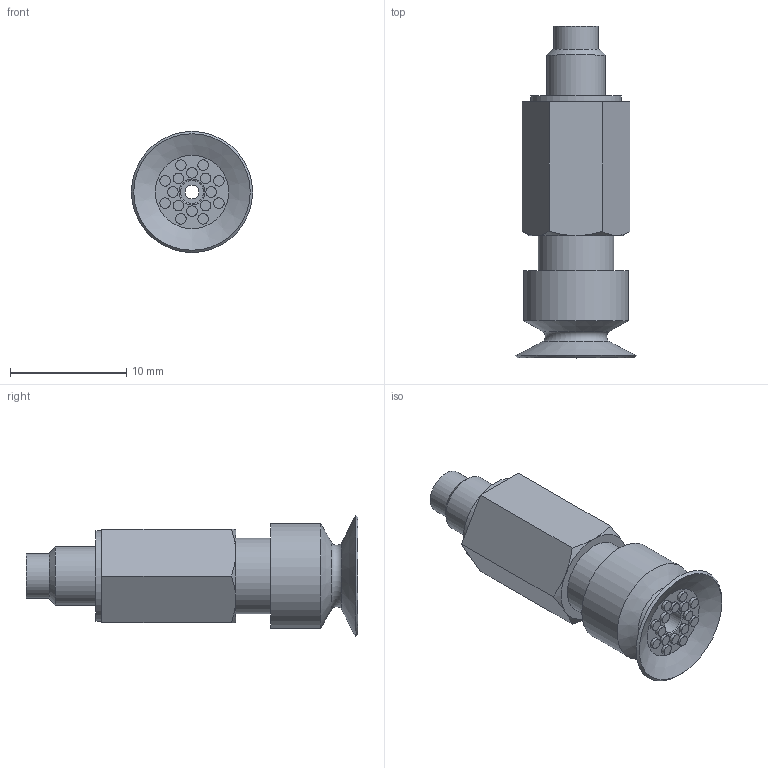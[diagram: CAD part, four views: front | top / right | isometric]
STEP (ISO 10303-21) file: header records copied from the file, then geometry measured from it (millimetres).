
FILE_DESCRIPTION(('STEP AP203'),'1');
FILE_NAME('.stp','2024-08-09T03:09:17',(' '),(' '),'Spatial InterOp 3D',' ',' ');
FILE_SCHEMA(('CONFIG_CONTROL_DESIGN'));
Length unit declared in the file: millimetre
Products named in the file (4): BPSS-L3-BPAG-10A-※; BPSS-10A-L3-M; BPSS-10A-L3-F; BPAG-10A-※
Assembly tree (3 placements, depth 2):
  BPSS-L3-BPAG-10A-※
    BPSS-10A-L3-M
    BPSS-10A-L3-F
    BPAG-10A-※
Bounding box: 10.41 x 28.5 x 10.41 mm (x, y, z)
Volume: 1095.7 mm3; surface area: 1770.3 mm2
Topology: 3 solids, 3 shells, 87 faces, 151 edges, 96 vertices
Faces by surface type: plane 38, cylinder 31, cone 11, torus 7
Full cylindrical faces by diameter (mm): 0.9 x16, 1.2 x1, 2 x1, 2.4 x2, 3.4 x1, 3.8 x1, 4 x2, 5 x1, 6 x2, 6.5 x2, 7.8 x1, 9 x1
Entity records: 2054 total; most frequent: DIRECTION 354, CARTESIAN_POINT 311, ORIENTED_EDGE 208, AXIS2_PLACEMENT_3D 171, EDGE_LOOP 162, FACE_OUTER_BOUND 125, EDGE_CURVE 104, VERTEX_POINT 92
